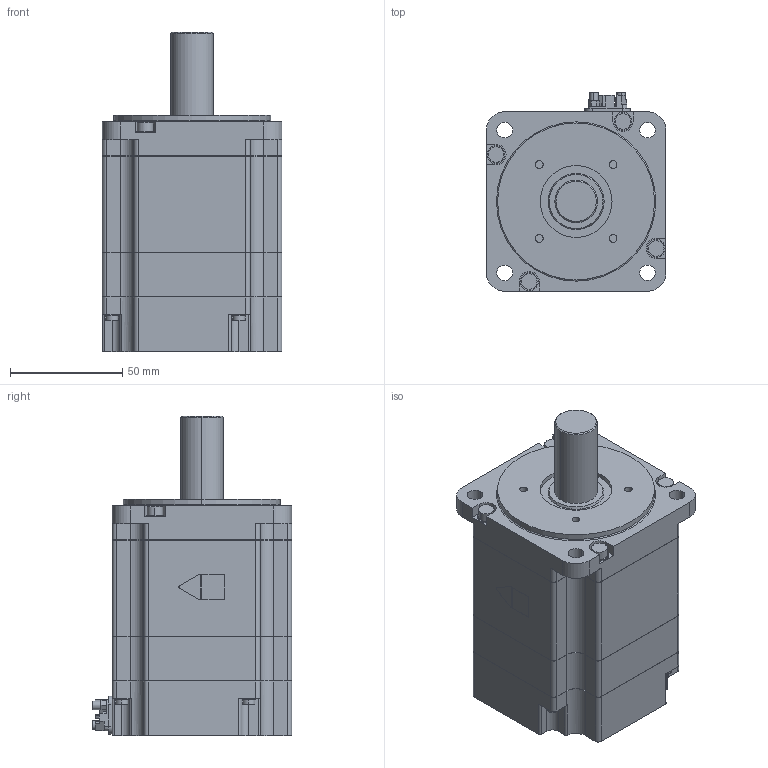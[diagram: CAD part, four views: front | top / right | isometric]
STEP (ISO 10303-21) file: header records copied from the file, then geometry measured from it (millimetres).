
FILE_DESCRIPTION (( 'STEP AP214' ), '1' );
FILE_NAME ('sgmxj_08awa21a1.STEP', '2021-01-26T08:06:15', ( 'EN00457-1' ), ( 'Hewlett-Packard Company' ), 'SwSTEP 2.0', 'SolidWorks 2016', '' );
FILE_SCHEMA (( 'AUTOMOTIVE_DESIGN' ));
Length unit declared in the file: millimetre
Products named in the file (1): sgmxj_08awa21a1
Bounding box: 80.1 x 88.8 x 142.6 mm (x, y, z)
Volume: 598065.2 mm3; surface area: 51401.1 mm2
Topology: 1 solids, 1 shells, 439 faces, 1167 edges, 776 vertices
Faces by surface type: plane 248, cylinder 185, cone 4, torus 2
Entity records: 18587 total; most frequent: DIRECTION 2433, CARTESIAN_POINT 2383, ORIENTED_EDGE 2334, EDGE_CURVE 1167, AXIS2_PLACEMENT_3D 826, VECTOR 781, LINE 781, VERTEX_POINT 776
